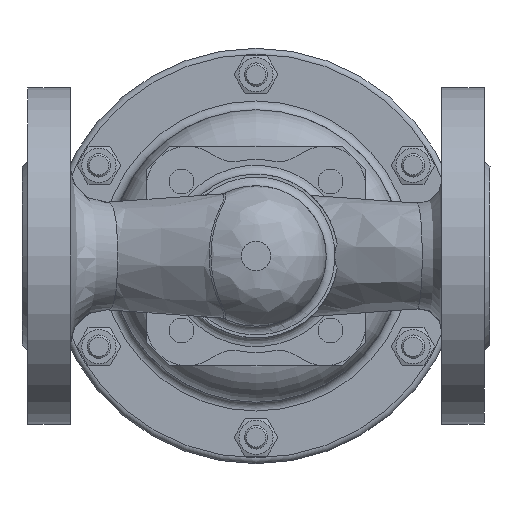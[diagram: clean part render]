
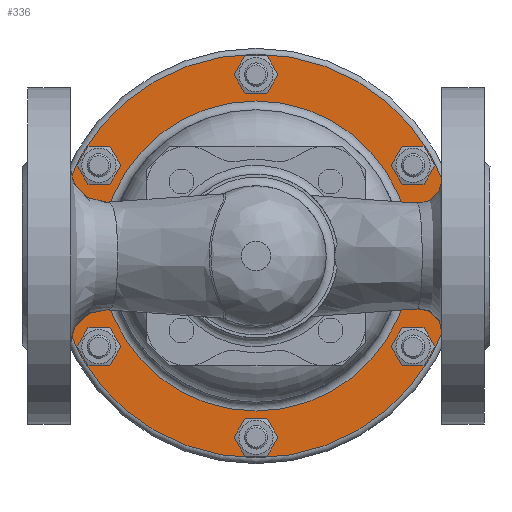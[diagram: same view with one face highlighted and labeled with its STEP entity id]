
A CAD part, front view. The second image highlights one B-rep face of the part: STEP entity #336.
In plain terms, the highlighted planar face has unit normal (0, -1, 0).
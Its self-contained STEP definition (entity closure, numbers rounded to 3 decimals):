
#336=ADVANCED_FACE('',(#5957,#5959,#5961,#5963,#5965,#5967,#5969,#5971),#5973,.T.);
#5957=FACE_BOUND('',#5958,.T.);
#5958=EDGE_LOOP('',(#21071));
#5959=FACE_BOUND('',#5960,.T.);
#5960=EDGE_LOOP('',(#21072));
#5961=FACE_BOUND('',#5962,.T.);
#5962=EDGE_LOOP('',(#21073));
#5963=FACE_BOUND('',#5964,.T.);
#5964=EDGE_LOOP('',(#21074,#21075,#21076,#21077,#21078,#21079,#21080,#21081));
#5965=FACE_BOUND('',#5966,.T.);
#5966=EDGE_LOOP('',(#21082));
#5967=FACE_BOUND('',#5968,.T.);
#5968=EDGE_LOOP('',(#21083));
#5969=FACE_BOUND('',#5970,.T.);
#5970=EDGE_LOOP('',(#21084));
#5971=FACE_OUTER_BOUND('',#5972,.T.);
#5972=EDGE_LOOP('',(#21085));
#5973=PLANE('',#5974);
#5974=AXIS2_PLACEMENT_3D('',#5975,#5976,#5977);
#5975=CARTESIAN_POINT('',(0.,146.,0.));
#5976=DIRECTION('',(0.,-1.,0.));
#5977=DIRECTION('',(-1.,0.,0.));
#21071=ORIENTED_EDGE('',*,*,#23663,.F.);
#21072=ORIENTED_EDGE('',*,*,#23664,.F.);
#21073=ORIENTED_EDGE('',*,*,#23665,.F.);
#21074=ORIENTED_EDGE('',*,*,#23588,.T.);
#21075=ORIENTED_EDGE('',*,*,#23666,.F.);
#21076=ORIENTED_EDGE('',*,*,#23667,.F.);
#21077=ORIENTED_EDGE('',*,*,#23668,.F.);
#21078=ORIENTED_EDGE('',*,*,#23608,.T.);
#21079=ORIENTED_EDGE('',*,*,#23669,.F.);
#21080=ORIENTED_EDGE('',*,*,#23670,.F.);
#21081=ORIENTED_EDGE('',*,*,#23671,.F.);
#21082=ORIENTED_EDGE('',*,*,#23672,.F.);
#21083=ORIENTED_EDGE('',*,*,#23673,.F.);
#21084=ORIENTED_EDGE('',*,*,#23674,.F.);
#21085=ORIENTED_EDGE('',*,*,#23675,.F.);
#23588=EDGE_CURVE('',#25471,#25469,#25472,.T.);
#23608=EDGE_CURVE('',#25504,#25505,#25506,.T.);
#23663=EDGE_CURVE('',#25589,#25589,#25590,.T.);
#23664=EDGE_CURVE('',#25591,#25591,#25592,.T.);
#23665=EDGE_CURVE('',#25593,#25593,#25594,.T.);
#23666=EDGE_CURVE('',#25595,#25469,#25596,.T.);
#23667=EDGE_CURVE('',#25597,#25595,#25598,.T.);
#23668=EDGE_CURVE('',#25504,#25597,#25599,.T.);
#23669=EDGE_CURVE('',#25600,#25505,#25601,.T.);
#23670=EDGE_CURVE('',#25602,#25600,#25603,.T.);
#23671=EDGE_CURVE('',#25471,#25602,#25604,.T.);
#23672=EDGE_CURVE('',#25605,#25605,#25606,.T.);
#23673=EDGE_CURVE('',#25607,#25607,#25608,.T.);
#23674=EDGE_CURVE('',#25609,#25609,#25610,.T.);
#23675=EDGE_CURVE('',#25611,#25611,#25612,.T.);
#25469=VERTEX_POINT('',#32779);
#25471=VERTEX_POINT('',#32795);
#25472=CIRCLE('',#32796,53.);
#25504=VERTEX_POINT('',#32997);
#25505=VERTEX_POINT('',#32998);
#25506=CIRCLE('',#32999,53.);
#25589=VERTEX_POINT('',#33922);
#25590=CIRCLE('',#33923,5.85);
#25591=VERTEX_POINT('',#33927);
#25592=CIRCLE('',#33928,5.85);
#25593=VERTEX_POINT('',#33932);
#25594=CIRCLE('',#33933,5.85);
#25595=VERTEX_POINT('',#33937);
#25596=LINE('',#33938,#33939);
#25597=VERTEX_POINT('',#33941);
#25598=CIRCLE('',#33942,3.5);
#25599=LINE('',#33946,#33947);
#25600=VERTEX_POINT('',#33949);
#25601=LINE('',#33950,#33951);
#25602=VERTEX_POINT('',#33953);
#25603=CIRCLE('',#33954,3.5);
#25604=LINE('',#33958,#33959);
#25605=VERTEX_POINT('',#33961);
#25606=CIRCLE('',#33962,5.85);
#25607=VERTEX_POINT('',#33966);
#25608=CIRCLE('',#33967,5.85);
#25609=VERTEX_POINT('',#33971);
#25610=CIRCLE('',#33972,5.85);
#25611=VERTEX_POINT('',#33976);
#25612=CIRCLE('',#33977,69.);
#32779=CARTESIAN_POINT('',(-52.884,146.,-3.5));
#32795=CARTESIAN_POINT('',(52.884,146.,-3.5));
#32796=AXIS2_PLACEMENT_3D('',#32797,#32798,#32799);
#32797=CARTESIAN_POINT('',(0.,146.,0.));
#32798=DIRECTION('',(0.,1.,0.));
#32799=DIRECTION('',(0.998,0.,-0.066));
#32997=CARTESIAN_POINT('',(-52.884,146.,3.5));
#32998=CARTESIAN_POINT('',(52.884,146.,3.5));
#32999=AXIS2_PLACEMENT_3D('',#33000,#33001,#33002);
#33000=CARTESIAN_POINT('',(0.,146.,0.));
#33001=DIRECTION('',(0.,1.,0.));
#33002=DIRECTION('',(-0.998,0.,0.066));
#33922=CARTESIAN_POINT('',(56.619,146.,25.934));
#33923=AXIS2_PLACEMENT_3D('',#33924,#33925,#33926);
#33924=CARTESIAN_POINT('',(53.694,146.,31.));
#33925=DIRECTION('',(0.,-1.,0.));
#33926=DIRECTION('',(-1.,0.,0.));
#33927=CARTESIAN_POINT('',(2.925,146.,-67.066));
#33928=AXIS2_PLACEMENT_3D('',#33929,#33930,#33931);
#33929=CARTESIAN_POINT('',(0.,146.,-62.));
#33930=DIRECTION('',(0.,-1.,0.));
#33931=DIRECTION('',(-1.,0.,0.));
#33932=CARTESIAN_POINT('',(-50.769,146.,25.934));
#33933=AXIS2_PLACEMENT_3D('',#33934,#33935,#33936);
#33934=CARTESIAN_POINT('',(-53.694,146.,31.));
#33935=DIRECTION('',(0.,-1.,0.));
#33936=DIRECTION('',(-1.,0.,0.));
#33937=CARTESIAN_POINT('',(-59.5,146.,-3.5));
#33938=CARTESIAN_POINT('',(-59.5,146.,-3.5));
#33939=VECTOR('',#33940,1.);
#33940=DIRECTION('',(1.,0.,0.));
#33941=CARTESIAN_POINT('',(-59.5,146.,3.5));
#33942=AXIS2_PLACEMENT_3D('',#33943,#33944,#33945);
#33943=CARTESIAN_POINT('',(-59.5,146.,0.));
#33944=DIRECTION('',(-0.,-1.,0.));
#33945=DIRECTION('',(0.,0.,1.));
#33946=CARTESIAN_POINT('',(-52.884,146.,3.5));
#33947=VECTOR('',#33948,1.);
#33948=DIRECTION('',(-1.,0.,0.));
#33949=CARTESIAN_POINT('',(59.5,146.,3.5));
#33950=CARTESIAN_POINT('',(59.5,146.,3.5));
#33951=VECTOR('',#33952,1.);
#33952=DIRECTION('',(-1.,0.,0.));
#33953=CARTESIAN_POINT('',(59.5,146.,-3.5));
#33954=AXIS2_PLACEMENT_3D('',#33955,#33956,#33957);
#33955=CARTESIAN_POINT('',(59.5,146.,0.));
#33956=DIRECTION('',(-0.,-1.,0.));
#33957=DIRECTION('',(0.,0.,-1.));
#33958=CARTESIAN_POINT('',(52.884,146.,-3.5));
#33959=VECTOR('',#33960,1.);
#33960=DIRECTION('',(1.,0.,0.));
#33961=CARTESIAN_POINT('',(-50.769,146.,-36.066));
#33962=AXIS2_PLACEMENT_3D('',#33963,#33964,#33965);
#33963=CARTESIAN_POINT('',(-53.694,146.,-31.));
#33964=DIRECTION('',(0.,-1.,0.));
#33965=DIRECTION('',(-1.,0.,0.));
#33966=CARTESIAN_POINT('',(56.619,146.,-36.066));
#33967=AXIS2_PLACEMENT_3D('',#33968,#33969,#33970);
#33968=CARTESIAN_POINT('',(53.694,146.,-31.));
#33969=DIRECTION('',(0.,-1.,0.));
#33970=DIRECTION('',(-1.,0.,0.));
#33971=CARTESIAN_POINT('',(2.925,146.,56.934));
#33972=AXIS2_PLACEMENT_3D('',#33973,#33974,#33975);
#33973=CARTESIAN_POINT('',(0.,146.,62.));
#33974=DIRECTION('',(0.,-1.,0.));
#33975=DIRECTION('',(-1.,0.,0.));
#33976=CARTESIAN_POINT('',(69.,146.,0.));
#33977=AXIS2_PLACEMENT_3D('',#33978,#33979,#33980);
#33978=CARTESIAN_POINT('',(0.,146.,0.));
#33979=DIRECTION('',(0.,1.,0.));
#33980=DIRECTION('',(-1.,0.,0.));
